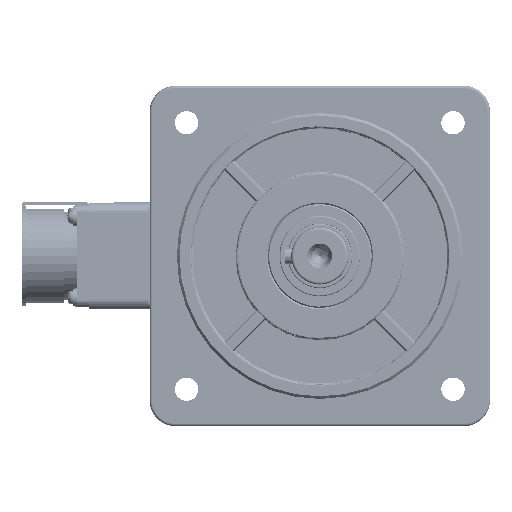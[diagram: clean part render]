
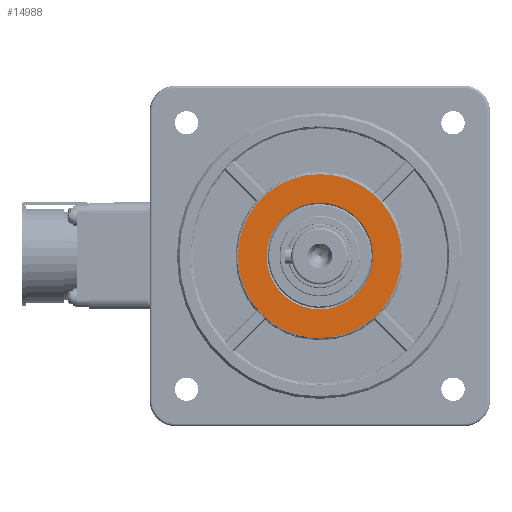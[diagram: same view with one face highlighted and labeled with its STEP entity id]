
A CAD part, left-side view. The second image highlights one B-rep face of the part: STEP entity #14988.
In plain terms, the highlighted planar face has unit normal (-1, 0, 0) as drawn and (1, 0, 0) by its records, which use the part's own axes.
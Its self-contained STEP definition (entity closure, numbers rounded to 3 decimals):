
#2142 = DIRECTION ( 'NONE',  ( 1., 0., 0. ) ) ;
#5275 = EDGE_CURVE ( 'NONE', #84406, #14489, #78081, .T. ) ;
#9891 = DIRECTION ( 'NONE',  ( -1., 0., 0. ) ) ;
#13333 = VERTEX_POINT ( 'NONE', #146547 ) ;
#14373 = DIRECTION ( 'NONE',  ( 1., 0., 0. ) ) ;
#14489 = VERTEX_POINT ( 'NONE', #35345 ) ;
#14988 = ADVANCED_FACE ( 'NONE', ( #23785, #45502 ), #91116, .F. ) ;
#23785 = FACE_BOUND ( 'NONE', #136677, .T. ) ;
#26927 = ORIENTED_EDGE ( 'NONE', *, *, #105305, .T. ) ;
#32505 = EDGE_LOOP ( 'NONE', ( #56047, #121766 ) ) ;
#34257 = DIRECTION ( 'NONE',  ( -1., 0., 0. ) ) ;
#35345 = CARTESIAN_POINT ( 'NONE',  ( 30., 0., -20.5 ) ) ;
#40036 = AXIS2_PLACEMENT_3D ( 'NONE', #116716, #14373, #59917 ) ;
#41832 = CARTESIAN_POINT ( 'NONE',  ( 30., 0., 0. ) ) ;
#45502 = FACE_OUTER_BOUND ( 'NONE', #32505, .T. ) ;
#47652 = DIRECTION ( 'NONE',  ( 0., 0., 1. ) ) ;
#55406 = DIRECTION ( 'NONE',  ( 0., 0., 1. ) ) ;
#56047 = ORIENTED_EDGE ( 'NONE', *, *, #115365, .T. ) ;
#56948 = CARTESIAN_POINT ( 'NONE',  ( 30., 0., 31.5 ) ) ;
#57115 = CIRCLE ( 'NONE', #140646, 31.5 ) ;
#59917 = DIRECTION ( 'NONE',  ( 0., 0., 1. ) ) ;
#67508 = CARTESIAN_POINT ( 'NONE',  ( 30., 0., 20.5 ) ) ;
#78081 = CIRCLE ( 'NONE', #97201, 20.5 ) ;
#79885 = DIRECTION ( 'NONE',  ( 0., 0., 1. ) ) ;
#84406 = VERTEX_POINT ( 'NONE', #67508 ) ;
#87488 = DIRECTION ( 'NONE',  ( -1., 0., 0. ) ) ;
#91116 = PLANE ( 'NONE',  #96897 ) ;
#96897 = AXIS2_PLACEMENT_3D ( 'NONE', #136658, #34257, #79885 ) ;
#97201 = AXIS2_PLACEMENT_3D ( 'NONE', #112227, #9891, #55406 ) ;
#104473 = CARTESIAN_POINT ( 'NONE',  ( 30., 0., 0. ) ) ;
#104537 = CIRCLE ( 'NONE', #40036, 31.5 ) ;
#105305 = EDGE_CURVE ( 'NONE', #14489, #84406, #118240, .T. ) ;
#112227 = CARTESIAN_POINT ( 'NONE',  ( 30., 0., 0. ) ) ;
#115365 = EDGE_CURVE ( 'NONE', #127969, #13333, #57115, .T. ) ;
#116716 = CARTESIAN_POINT ( 'NONE',  ( 30., 0., 0. ) ) ;
#118240 = CIRCLE ( 'NONE', #137332, 20.5 ) ;
#121766 = ORIENTED_EDGE ( 'NONE', *, *, #129582, .T. ) ;
#127969 = VERTEX_POINT ( 'NONE', #56948 ) ;
#128668 = ORIENTED_EDGE ( 'NONE', *, *, #5275, .T. ) ;
#129582 = EDGE_CURVE ( 'NONE', #13333, #127969, #104537, .T. ) ;
#133032 = DIRECTION ( 'NONE',  ( 0., 0., 1. ) ) ;
#136658 = CARTESIAN_POINT ( 'NONE',  ( 30., 20., 0. ) ) ;
#136677 = EDGE_LOOP ( 'NONE', ( #26927, #128668 ) ) ;
#137332 = AXIS2_PLACEMENT_3D ( 'NONE', #41832, #87488, #133032 ) ;
#140646 = AXIS2_PLACEMENT_3D ( 'NONE', #104473, #2142, #47652 ) ;
#146547 = CARTESIAN_POINT ( 'NONE',  ( 30., 0., -31.5 ) ) ;
